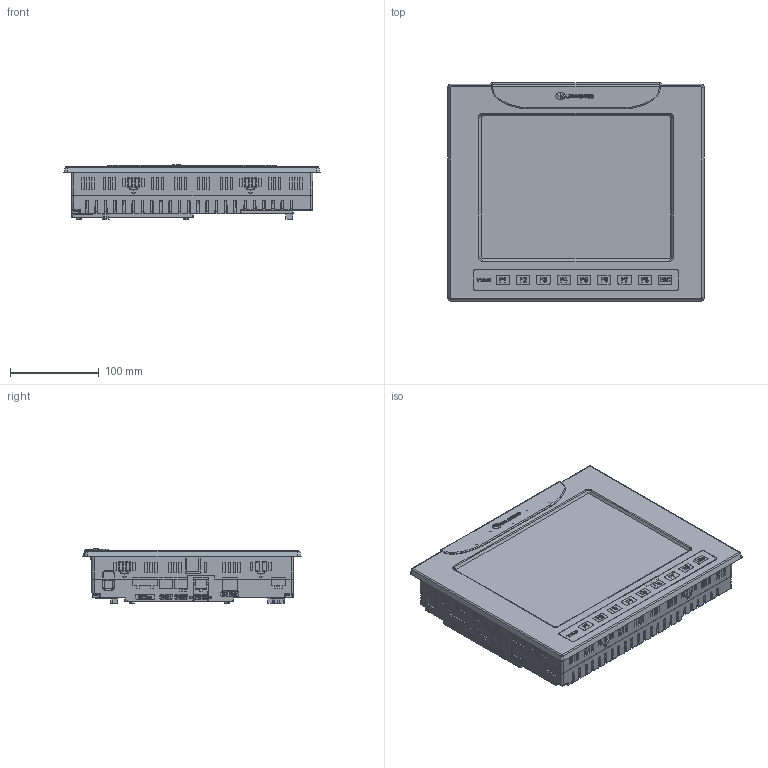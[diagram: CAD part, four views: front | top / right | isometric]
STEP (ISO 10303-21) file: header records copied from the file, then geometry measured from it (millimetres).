
FILE_DESCRIPTION (( 'STEP AP214' ), '1' );
FILE_NAME ('V1040.STEP', '2024-04-18T10:52:18', ( '' ), ( '' ), 'SwSTEP 2.0', 'SolidWorks 2022', '' );
FILE_SCHEMA (( 'AUTOMOTIVE_DESIGN' ));
Length unit declared in the file: millimetre
Products named in the file (1): V1040
Bounding box: 289 x 246 x 61.4 mm (x, y, z)
Volume: 3149528.6 mm3; surface area: 228019.7 mm2
Topology: 1 solids, 15 shells, 5616 faces, 14713 edges, 9467 vertices
Faces by surface type: plane 3504, bspline 917, cylinder 789, cone 335, torus 48, sphere 23
Entity records: 210876 total; most frequent: CARTESIAN_POINT 79891, ORIENTED_EDGE 29342, DIRECTION 23176, EDGE_CURVE 14671, LINE 10278, VECTOR 10278, VERTEX_POINT 9467, AXIS2_PLACEMENT_3D 6449
